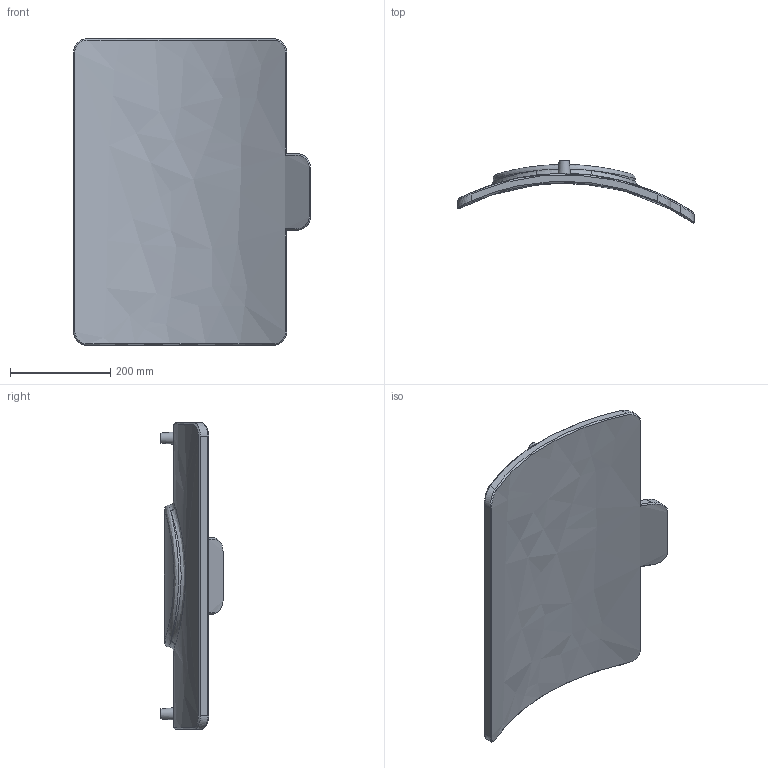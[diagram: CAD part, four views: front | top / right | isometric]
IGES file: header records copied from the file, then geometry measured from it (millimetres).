
Global section: file name: 495203900230; native system: Autodesk Inventor 2019; preprocessor: unknown; author: Kirill; date: 20230829.111705; units: millimetre
Bounding box: 471 x 123.49 x 610 mm (x, y, z)
Volume: 6110269.6 mm3; surface area: 604207.5 mm2
Topology: 1 solids, 1 shells, 76 faces, 181 edges, 114 vertices
Faces by surface type: bspline 76
